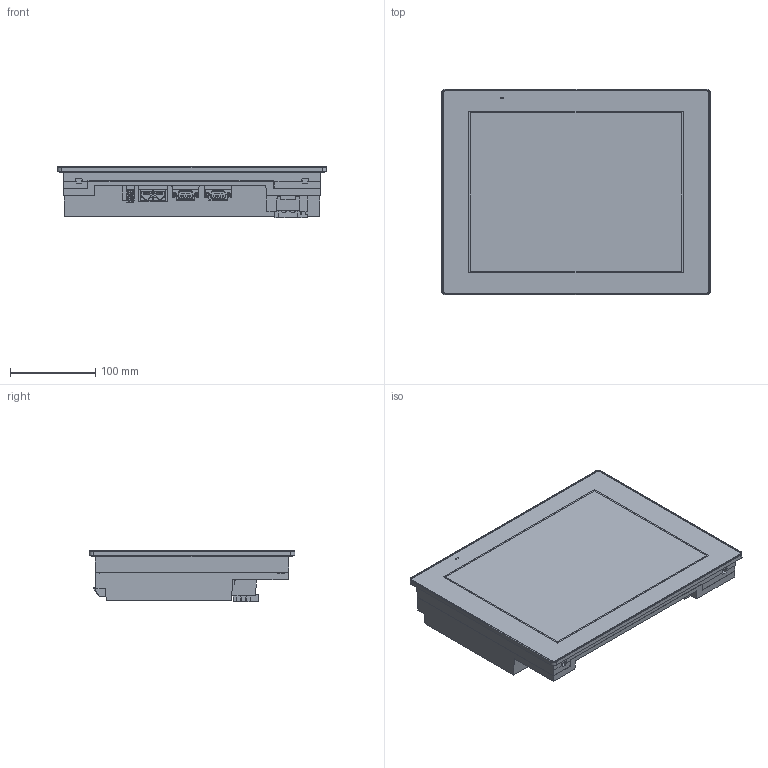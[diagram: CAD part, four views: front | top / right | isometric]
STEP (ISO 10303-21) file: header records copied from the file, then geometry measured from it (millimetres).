
FILE_DESCRIPTION (( 'STEP AP203' ), '1' );
FILE_NAME ('PFXGP6600TAD-3D-simpl.STEP', '2025-02-06T14:18:51', ( '' ), ( '' ), 'SwSTEP 2.0', 'SolidWorks 2017', '' );
FILE_SCHEMA (( 'CONFIG_CONTROL_DESIGN' ));
Length unit declared in the file: millimetre
Products named in the file (4): PFXGP6600TAD-3D-simpl_1_2_1; PFXGP6600TAD-3D-simpl; PFXGP6600TAD-3D-simpl_1_1; PFXGP6600TAD-3D-simpl_1_3_1
Assembly tree (3 placements, depth 2):
  PFXGP6600TAD-3D-simpl
    PFXGP6600TAD-3D-simpl_1_1
    PFXGP6600TAD-3D-simpl_1_3_1
    PFXGP6600TAD-3D-simpl_1_2_1
Bounding box: 315 x 241 x 59.98 mm (x, y, z)
Volume: 3173626.9 mm3; surface area: 338594.4 mm2
Topology: 3 solids, 3 shells, 2384 faces, 6684 edges, 4324 vertices
Faces by surface type: plane 1484, cylinder 604, bspline 185, cone 102, torus 9
Entity records: 90866 total; most frequent: CARTESIAN_POINT 33005, ORIENTED_EDGE 13294, DIRECTION 9791, EDGE_CURVE 6647, VECTOR 4405, LINE 4405, VERTEX_POINT 4324, AXIS2_PLACEMENT_3D 2693
